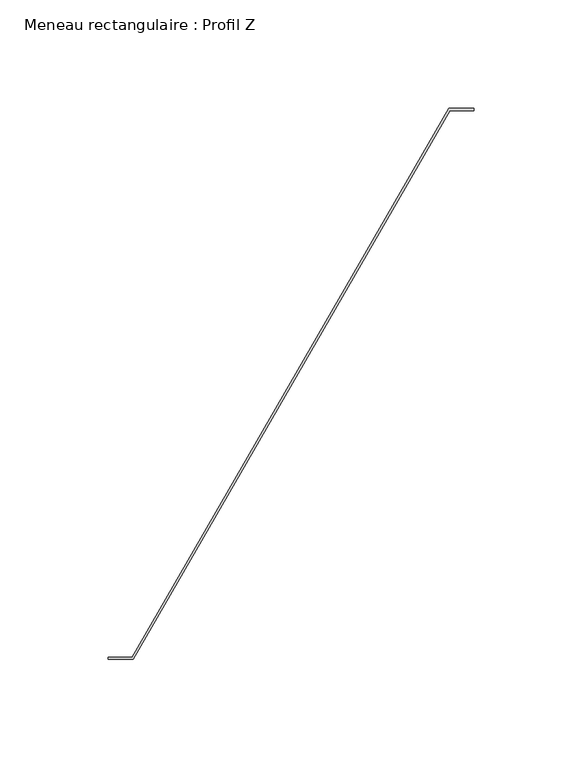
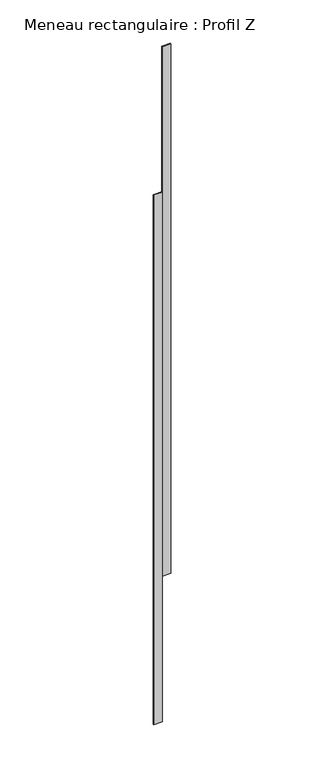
"""IFC4 building model written with IfcOpenShell, lengths in millimetres: member geometry, Meneau rectangulaire : Profil Z."""

from ifc_helpers import new_model, si_unit, frame, origin, place, context, project, spatial, polyline, outline, extrude, source, transform, mapped, element, save


def meneau_rectangulaire_profil_z_cede7da6(model_context):
    return source(origin(), model_context, "Body", "SweptSolid", [
        extrude(outline(polyline([(72.7461339, 87.0), (84.2931393, 87.0), (84.2931393, 86.0), (73.3234842, 86.0), (-72.7461339, -167.0), (-84.2931393, -167.0), (-84.2931393, -166.0), (-73.3234842, -166.0), (72.7461339, 87.0)])), frame((0.0, 0.0, -744.6), z_axis=(0.0, 0.0, 1.0), x_axis=(1.0, 0.0, 0.0)), (0.0, 0.0, 1.0), 744.6),
    ])


if __name__ == "__main__":
    model = new_model("IFC4")
    model_context = context("Model", 3, world=origin())
    ifc_project = project(units=[si_unit("LENGTHUNIT", "METRE", prefix="MILLI")], contexts=[model_context])
    site = spatial("IfcSite", under=ifc_project)
    building = spatial("IfcBuilding", under=site)
    placement = place(None, origin())
    meneau_rectangulaire_profil_z_shape = meneau_rectangulaire_profil_z_cede7da6(model_context)
    element("IfcMember", 1, ObjectType="Meneau rectangulaire : Profil Z", at=placement, inside=building, context=model_context, shape_type="MappedRepresentation", body=[
        mapped(meneau_rectangulaire_profil_z_shape, transform((0.0, 0.0, 0.0), x_axis=(1.0, 0.0, 0.0), y_axis=(0.0, 1.0, 0.0), z_axis=(0.0, 0.0, 1.0))),
    ])
    save(model, "model.ifc")
